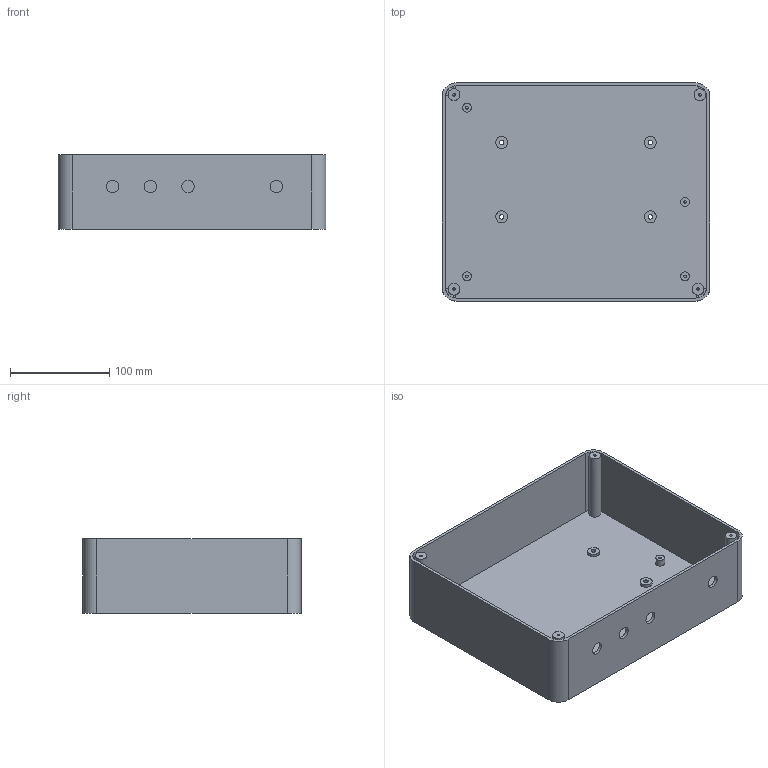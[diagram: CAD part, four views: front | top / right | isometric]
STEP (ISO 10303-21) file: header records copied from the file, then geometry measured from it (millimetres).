
FILE_DESCRIPTION(('Open CASCADE Model'),'2;1');
FILE_NAME('Open CASCADE Shape Model','2026-10-05T19:39:42',('Author'),( 'Open CASCADE'),'Open CASCADE STEP processor 7.8','Open CASCADE 7.8' ,'Unknown');
FILE_SCHEMA(('AUTOMOTIVE_DESIGN { 1 0 10303 214 1 1 1 1 }'));
Length unit declared in the file: millimetre
Products named in the file (1): Open CASCADE STEP translator 7.8 1
Bounding box: 270 x 220 x 75 mm (x, y, z)
Volume: 418363.3 mm3; surface area: 270694.4 mm2
Topology: 1 solids, 1 shells, 115 faces, 288 edges, 192 vertices
Faces by surface type: plane 79, cylinder 36
Full cylindrical faces by diameter (mm): 2.6 x8, 4.5 x4, 9 x4, 12 x8, 12.5 x4
Entity records: 7258 total; most frequent: CARTESIAN_POINT 1552, DIRECTION 1038, ORIENTED_EDGE 576, PCURVE 576, DEFINITIONAL_REPRESENTATION 576, LINE 512, VECTOR 512, EDGE_CURVE 288
